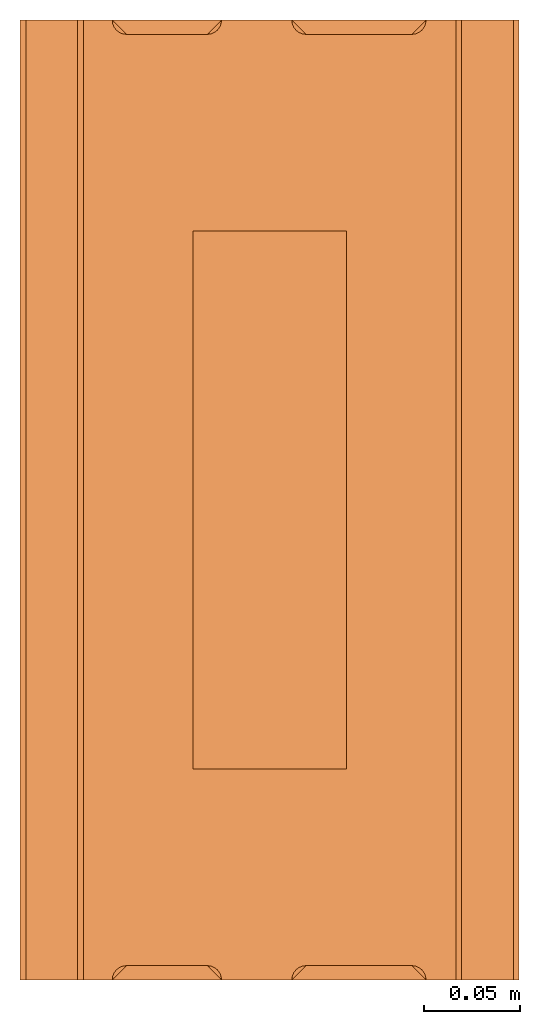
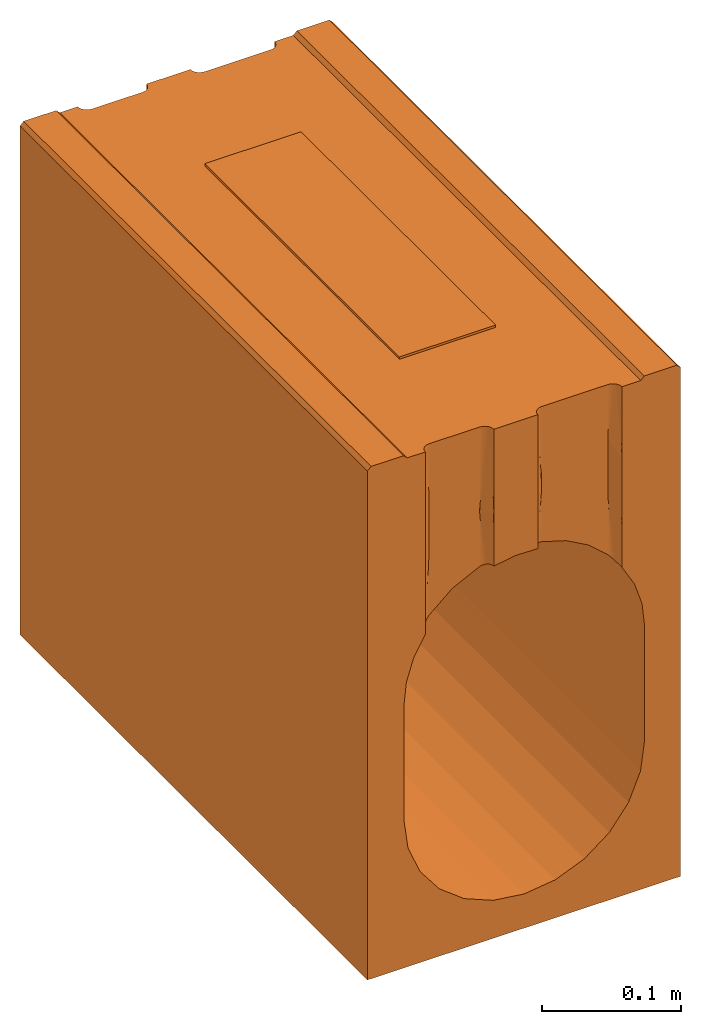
# One storey: 1 proxy.
"""IFC2X3 building model written with IfcOpenShell, lengths in millimetres."""

from ifc_helpers import new_model, entity, si_unit, converted_unit, direction, frame, origin, place, context, subcontext, project, spatial, faceted_brep, source, transform, mapped, material, element, save


model = new_model("IFC2X3")

# Units and contexts
model_context = context("Model", 3, precision=1e-06, world=origin(), true_north=direction((2.0, 6.12303176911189e-17, 1.0)))
context_of_model = context(None, 3, precision=1e-06, world=origin(), true_north=direction((2.0, 6.12303176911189e-17, 1.0)))
body_context = subcontext(model_context, "Body", "Model", "MODEL_VIEW")
ifc_project = project(units=[si_unit("LENGTHUNIT", "METRE", prefix="MILLI"), si_unit("AREAUNIT", "SQUARE_METRE", prefix="MILLI"), si_unit("VOLUMEUNIT", "CUBIC_METRE", prefix="MILLI"), converted_unit("PLANEANGLEUNIT", "DEGREE", entity("IfcRatioMeasure", 0.0174532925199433), si_unit("PLANEANGLEUNIT", "RADIAN"), dimensions=[0, 0, 0, 0, 0, 0, 0]), si_unit("TIMEUNIT", "SECOND")], contexts=[model_context, context_of_model])

# Site, building, storey
site_placement = place(None, origin())
site = spatial("IfcSite", under=ifc_project, at=site_placement, Name="Default", CompositionType="ELEMENT")
building_placement = place(site_placement, origin())
building = spatial("IfcBuilding", under=site, at=building_placement, CompositionType="ELEMENT")
storey_placement = place(building_placement, frame((0.0, 0.0, -4600.0)))
storey = spatial("IfcBuildingStorey", under=building, at=storey_placement, Name="B.O. Footing", CompositionType="ELEMENT", Elevation=-4600.0)

# Proxy
ifc_material = material(Name="Acetal Resin, Black")
shared_shape = source(origin(), body_context, "Body", "Brep", [
    faceted_brep([(-130.0, 0.0, -450.0), (-96.3425826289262, 0.0, -345.881904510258), (-99.7500000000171, 0.0, -320.0), (-86.3525403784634, 0.0, -370.0), (-99.7499999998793, 0.0, -219.996245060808), (-130.0, 0.0, -3.0), (-25.6319045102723, 0.0, -416.592582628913), (-49.75000000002, 0.0, -406.60254037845), (-70.4606781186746, 0.0, -390.710678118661), (0.24999999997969, 0.0, -420.0), (130.0, 0.0, -450.0), (-97.0, 0.0, -3.0), (-100.0, 0.0, 0.0), (-127.0, 0.0, 0.0), (-97.7180508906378, 0.0, -199.939799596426), (-91.712035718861, 0.0, -180.715410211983), (-82.0, 0.0, -163.119734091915), (-82.0, 0.0, -83.0598682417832), (26.1319045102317, 0.0, -416.592582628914), (70.9606781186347, 0.0, -390.710678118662), (50.2499999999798, 0.0, -406.602540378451), (86.8525403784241, 0.0, -370.0), (96.8425826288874, 0.0, -345.88190451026), (100.249999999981, 0.0, -320.0), (100.24999999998, 0.0, -219.996245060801), (130.0, 0.0, -3.00030384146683), (97.0, 0.0, -3.0), (81.5000000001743, 0.0, -161.700125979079), (91.7626676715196, 0.0, -179.679602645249), (81.5000000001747, 0.0, -3.0), (81.5000000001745, 0.0, -66.0758561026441), (81.5000000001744, 0.0, -113.887991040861), (98.09970829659, 0.0, -199.370179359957), (126.999696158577, 0.0, 0.0), (100.0, 0.0, 0.0), (11.5477946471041, 500.0, -3.0), (11.5477946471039, 500.0, -72.8243603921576), (-6.86860893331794, 500.0, -120.249939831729), (-25.0, 500.0, -3.0), (-25.0, 500.0, -123.236555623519), (-25.0, 500.0, -75.4244206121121), (-25.0, 0.0, -3.0), (-25.0, 0.0, -75.4244213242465), (-6.84906831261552, 0.0, -120.248547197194), (11.5477946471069, 0.0, -3.0), (11.5477946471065, 0.0, -120.636495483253), (11.5477946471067, 0.0, -72.8243591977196), (130.0, 500.0, -450.0), (96.8425826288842, 500.0, -345.88190451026), (100.249999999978, 500.0, -320.0), (86.8525403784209, 500.0, -370.0), (100.250000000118, 500.0, -219.99624506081), (130.0, 500.0, -3.00030384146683), (26.1319045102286, 500.0, -416.592582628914), (50.2499999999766, 500.0, -406.602540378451), (70.9606781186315, 500.0, -390.710678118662), (0.249999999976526, 500.0, -420.0), (-130.0, 500.0, -450.0), (126.999696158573, 500.0, 0.0), (97.0, 500.0, -3.0), (100.0, 500.0, 0.0), (98.1003080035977, 500.0, -199.373024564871), (91.7558642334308, 500.0, -179.664163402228), (81.5000000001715, 500.0, -161.700125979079), (81.5000000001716, 500.0, -113.887991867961), (-25.6319045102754, 500.0, -416.592582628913), (-70.4606781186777, 500.0, -390.710678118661), (-49.7500000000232, 500.0, -406.60254037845), (-86.3525403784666, 500.0, -370.0), (-96.3425826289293, 500.0, -345.881904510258), (-99.7500000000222, 500.0, -320.0), (-99.7499999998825, 500.0, -219.996245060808), (-130.0, 500.0, -3.0), (-97.0, 500.0, -3.0), (-82.0, 500.0, -163.119734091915), (-91.7167978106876, 500.0, -180.726560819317), (-82.0, 500.0, -3.0), (-82.0, 500.0, -83.0598682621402), (-97.7175764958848, 500.0, -199.937482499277), (-127.0, 500.0, 0.0), (-100.0, 500.0, 0.0), (40.0, 319.282032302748, -450.0), (20.705523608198, 327.274066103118, -450.0), (56.5685424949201, 306.568542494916, -450.0), (0.0, 330.0, -450.0), (80.0, 250.0, -450.0), (77.2740661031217, 270.705523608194, -450.0), (69.2820323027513, 290.0, -450.0), (-20.7055236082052, 327.274066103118, -450.0), (-40.0, 319.282032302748, -450.0), (-56.5685424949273, 306.568542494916, -450.0), (-69.2820323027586, 290.0, -450.0), (-77.274066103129, 270.705523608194, -450.0), (-80.0, 250.0, -450.0), (69.2820323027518, 210.0, -450.0), (77.274066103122, 229.294476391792, -450.0), (56.5685424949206, 193.431457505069, -450.0), (40.0, 180.717967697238, -450.0), (20.7055236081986, 172.725933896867, -450.0), (0.0, 170.0, -450.0), (-77.274066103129, 229.29447639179, -450.0), (-69.2820323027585, 210.0, -450.0), (-40.0, 180.717967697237, -450.0), (-20.7055236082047, 172.725933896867, -450.0), (-56.568542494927, 193.431457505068, -450.0), (81.1950043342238, 497.882947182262, -161.277370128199), (81.1950043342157, 2.11705281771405, -161.277370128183), (80.4216632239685, 496.125436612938, -160.225814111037), (80.4216632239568, 3.87456338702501, -160.225814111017), (76.857097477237, 493.06552136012, -155.720646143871), (78.1743561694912, 493.769048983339, -157.324124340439), (78.1743561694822, 6.23095101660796, -157.324124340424), (76.8570974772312, 6.93447863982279, -155.72064614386), (79.3794709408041, 494.773979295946, -158.85275130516), (79.3794709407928, 5.2260207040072, -158.852751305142), (75.4574022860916, 492.64296400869, -154.088380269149), (75.4574022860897, 7.35703599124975, -154.088380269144), (13.2016693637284, 495.301828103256, -120.838520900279), (14.3957886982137, 494.117072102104, -121.001817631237), (14.3957886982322, 5.8829278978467, -121.001817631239), (13.2016693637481, 4.69817189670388, -120.838520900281), (11.7383704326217, 498.320024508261, -120.65835025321), (11.7383704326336, 1.67997549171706, -120.658350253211), (12.2997424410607, 496.72680715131, -120.724881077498), (12.2997424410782, 3.27319284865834, -120.7248810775), (58.0227410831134, 492.49999999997, -138.373267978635), (74.0, 492.499999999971, -152.461531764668), (74.0, 7.49999999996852, -152.461531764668), (58.0227410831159, 7.49999999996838, -138.373267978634), (39.4240326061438, 492.49999999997, -127.988662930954), (39.4240326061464, 7.49999999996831, -127.988662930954), (15.818647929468, 493.230759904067, -121.215593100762), (17.3961191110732, 492.684129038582, -121.477157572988), (17.3961191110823, 7.31587096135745, -121.477157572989), (15.8186479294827, 6.76924009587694, -121.215593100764), (19.047794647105, 492.49999999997, -121.778920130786), (19.0477946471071, 7.49999999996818, -121.778920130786), (11.5477946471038, 500.0, -120.636495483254), (-25.1970181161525, 498.292236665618, -123.288182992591), (-25.774869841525, 496.679966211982, -123.442083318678), (-25.1970181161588, 1.7077633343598, -123.288182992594), (-25.7748698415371, 3.32003378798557, -123.442083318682), (-26.6957528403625, 495.250187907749, -123.695017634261), (-26.6957528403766, 4.7498120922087, -123.695017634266), (-27.9018817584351, 494.074857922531, -124.040674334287), (-27.9018817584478, 5.92514207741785, -124.040674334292), (-55.3007739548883, 492.499999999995, -136.845108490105), (-32.4999999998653, 492.499999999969, -125.511127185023), (-32.4999999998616, 7.49999999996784, -125.511127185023), (-55.3007739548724, 7.49999999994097, -136.845108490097), (-30.880559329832, 492.676926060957, -124.965259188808), (-30.8805593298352, 7.32307393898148, -124.96525918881), (-29.3223177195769, 493.206448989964, -124.468877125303), (-29.3223177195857, 6.79355100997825, -124.468877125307), (-81.6881727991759, 497.859866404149, -162.671417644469), (-81.6881727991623, 2.14013359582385, -162.671417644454), (-80.9062164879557, 496.099949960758, -161.569637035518), (-80.9062164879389, 3.90005003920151, -161.569637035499), (-77.346208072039, 493.061044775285, -156.918289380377), (-75.9521343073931, 492.641922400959, -155.241054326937), (-75.9521343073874, 7.35807759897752, -155.241054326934), (-77.346208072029, 6.93895522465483, -156.918289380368), (-74.4999999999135, 492.500000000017, -153.570064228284), (-74.4999999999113, 7.49999999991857, -153.570064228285), (-79.8615303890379, 494.755575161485, -160.145240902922), (-79.8615303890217, 5.24442483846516, -160.145240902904), (-78.658658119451, 493.758560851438, -158.568045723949), (-78.6586581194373, 6.24143914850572, -158.568045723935), (-25.0, 0.0, -123.236555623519), (-81.744443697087, 498.058857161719, -3.0), (-80.9951905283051, 496.249999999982, -3.0), (-25.2555563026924, 498.058857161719, -3.0), (-26.0048094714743, 496.249999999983, -3.0), (11.8033509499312, 498.05885716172, -3.0), (-79.8033008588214, 494.696699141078, -3.0), (-78.2499999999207, 493.504809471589, -3.0), (-74.4999999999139, 492.499999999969, -3.0), (-76.4411428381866, 492.755556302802, -3.0), (-76.4411428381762, 7.24444369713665, -3.0), (-74.4999999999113, 7.49999999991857, -3.0), (-27.196699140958, 494.696699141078, -3.0), (-28.7499999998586, 493.50480947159, -3.0), (13.744493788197, 494.696699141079, -3.0), (12.5526041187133, 496.249999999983, -3.0), (-30.5588571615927, 492.755556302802, -3.0), (-32.4999999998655, 492.499999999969, -3.0), (19.0477946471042, 492.49999999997, -3.0), (17.1066518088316, 492.755556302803, -3.0), (15.2977946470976, 493.504809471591, -3.0), (-32.4999999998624, 7.49999999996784, -3.0), (81.500000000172, 500.0, -3.0), (81.2444436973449, 498.05885716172, -3.0), (80.4951905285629, 496.249999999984, -3.0), (79.3033008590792, 494.69669914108, -3.0), (77.7500000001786, 493.504809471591, -3.0), (75.9411428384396, 7.2444436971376, -3.0), (75.9411428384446, 492.755556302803, -3.0), (74.0, 492.499999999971, -3.0), (74.0, 7.49999999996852, -3.0), (19.0477946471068, 7.49999999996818, -3.0), (-78.2499999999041, 6.49519052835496, -3.0), (-30.5588571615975, 7.24444369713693, -3.0), (17.1066518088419, 7.2444436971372, -3.0), (-28.7499999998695, 6.4951905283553, -3.0), (-27.196699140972, 5.30330085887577, -3.0), (13.7444937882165, 5.30330085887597, -3.0), (15.2977946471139, 6.4951905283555, -3.0), (-81.7444436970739, 1.94114283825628, -3.0), (-80.9951905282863, 3.74999999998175, -3.0), (-82.0, 0.0, -3.0), (-79.8033008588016, 5.30330085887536, -3.0), (-25.2555563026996, 1.94114283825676, -3.0), (11.8033509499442, 1.94114283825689, -3.0), (-26.0048094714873, 3.74999999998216, -3.0), (12.5526041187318, 3.74999999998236, -3.0), (77.7500000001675, 6.49519052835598, -3.0), (80.4951905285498, 3.74999999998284, -3.0), (81.2444436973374, 1.94114283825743, -3.0), (79.303300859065, 5.30330085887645, -3.0), (19.047794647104, 492.49999999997, -73.9667852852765), (74.0, 492.499999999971, -98.6242681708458), (74.0, 492.499999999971, -50.8121340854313), (81.5000000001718, 500.0, -66.0758577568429), (-74.499999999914, 492.499999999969, -50.8121342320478), (-74.4999999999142, 492.499999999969, -98.6242694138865), (-32.4999999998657, 492.499999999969, -77.6989936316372), (-20.7055236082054, 327.274066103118, -440.0), (0.0, 330.0, -440.0), (-40.0, 319.282032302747, -440.0), (-56.5685424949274, 306.568542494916, -440.0), (-80.0, 250.0, -440.0), (-69.2820323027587, 290.0, -440.0), (-77.274066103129, 270.705523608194, -440.0), (40.0, 319.282032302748, -440.0), (40.0, 180.717967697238, -440.0), (20.7055236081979, 327.274066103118, -440.0), (56.56854249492, 306.568542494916, -440.0), (69.2820323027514, 290.0, -440.0), (77.2740661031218, 270.705523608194, -440.0), (80.0, 250.0, -440.0), (-69.2820323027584, 210.0, -440.0), (-40.0, 180.717967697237, -440.0), (-56.568542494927, 193.431457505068, -440.0), (0.0, 170.0, -440.0), (-20.7055236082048, 172.725933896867, -440.0), (77.2740661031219, 229.294476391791, -440.0), (69.2820323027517, 210.0, -440.0), (56.5685424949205, 193.431457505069, -440.0), (20.7055236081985, 172.725933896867, -440.0), (-77.2740661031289, 229.29447639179, -440.0), (74.0, 7.4999999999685, -50.8121299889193), (74.0, 7.4999999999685, -98.6242669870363), (19.0477946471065, 7.49999999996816, -73.9667863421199), (-74.4999999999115, 7.49999999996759, -50.8121335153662), (-32.4999999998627, 7.49999999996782, -77.6989939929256), (-74.4999999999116, 7.49999999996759, -98.624267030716)], [[[0, 1, 2]], [[1, 0, 3]], [[0, 2, 4, 5]], [[6, 7, 0]], [[8, 3, 0]], [[7, 8, 0]], [[9, 6, 0, 10]], [[5, 11, 12, 13]], [[14, 5, 4]], [[5, 14, 15]], [[11, 5, 16, 17]], [[16, 5, 15]], [[18, 9, 10]], [[19, 20, 10]], [[18, 10, 20]], [[21, 10, 22]], [[10, 21, 19]], [[23, 22, 10]], [[24, 23, 10, 25]], [[25, 26, 27, 28]], [[26, 29, 30, 31]], [[32, 24, 25]], [[33, 34, 26, 25]], [[25, 28, 32]], [[35, 36, 37, 38]], [[37, 39, 40, 38]], [[41, 42, 43, 44]], [[43, 45, 46, 44]], [[47, 48, 49]], [[48, 47, 50]], [[47, 49, 51, 52]], [[53, 54, 47]], [[55, 50, 47]], [[54, 55, 47]], [[56, 53, 47, 57]], [[58, 52, 59, 60]], [[61, 52, 51]], [[52, 61, 62]], [[59, 52, 63, 64]], [[63, 52, 62]], [[65, 56, 57]], [[66, 67, 57]], [[65, 57, 67]], [[68, 57, 69]], [[57, 68, 66]], [[70, 69, 57]], [[71, 70, 57, 72]], [[72, 73, 74, 75]], [[73, 76, 77, 74]], [[78, 71, 72]], [[72, 79, 80, 73]], [[72, 75, 78]], [[47, 52, 25, 10]], [[47, 81, 82]], [[81, 47, 83]], [[47, 82, 84]], [[85, 86, 47, 10]], [[87, 83, 47]], [[86, 87, 47]], [[84, 88, 57, 47]], [[57, 88, 89]], [[89, 90, 57]], [[91, 92, 57]], [[90, 91, 57]], [[57, 92, 93]], [[94, 95, 10]], [[96, 94, 10]], [[97, 10, 98]], [[10, 97, 96]], [[99, 98, 10, 0]], [[95, 85, 10]], [[100, 101, 0]], [[93, 100, 0, 57]], [[102, 103, 0]], [[104, 0, 101]], [[0, 104, 102]], [[103, 99, 0]], [[66, 68, 3, 8]], [[65, 67, 7, 6]], [[67, 66, 8, 7]], [[56, 65, 6, 9]], [[2, 1, 69, 70]], [[68, 69, 1, 3]], [[54, 53, 18, 20]], [[55, 54, 20, 19]], [[48, 50, 21, 22]], [[50, 55, 19, 21]], [[49, 48, 22, 23]], [[9, 18, 53, 56]], [[2, 70, 71, 4]], [[51, 24, 61]], [[63, 62, 27]], [[62, 61, 28]], [[105, 63, 27, 106]], [[107, 105, 106, 108]], [[109, 110, 111, 112]], [[110, 113, 114, 111]], [[113, 107, 108, 114]], [[115, 109, 112, 116]], [[117, 118, 119, 120]], [[43, 121, 122]], [[121, 123, 124, 122]], [[123, 117, 120, 124]], [[125, 126, 127, 128]], [[129, 125, 128, 130]], [[131, 132, 133, 134]], [[132, 135, 136, 133]], [[135, 129, 130, 136]], [[118, 131, 134, 119]], [[126, 115, 116, 127]], [[24, 32, 61]], [[28, 27, 62]], [[28, 61, 32]], [[122, 45, 43]], [[137, 121, 37]], [[138, 39, 37]], [[139, 138, 140, 141]], [[140, 138, 37]], [[142, 139, 141, 143]], [[144, 142, 143, 145]], [[146, 147, 148, 149]], [[147, 150, 151, 148]], [[152, 144, 145, 153]], [[150, 152, 153, 151]], [[74, 154, 155, 16]], [[74, 15, 75]], [[154, 156, 157, 155]], [[14, 78, 75]], [[158, 159, 160, 161]], [[159, 162, 163, 160]], [[156, 164, 165, 157]], [[164, 166, 167, 165]], [[166, 158, 161, 167]], [[71, 78, 14]], [[162, 146, 149, 163]], [[140, 43, 168]], [[37, 43, 140]], [[74, 16, 15]], [[14, 75, 15]], [[71, 14, 4]], [[121, 43, 37]], [[24, 51, 49, 23]], [[72, 57, 0, 5]], [[73, 169, 76]], [[169, 73, 170]], [[38, 171, 35]], [[171, 172, 173, 35]], [[73, 174, 170]], [[175, 174, 73]], [[176, 177, 178, 179]], [[177, 175, 73, 11]], [[180, 181, 182, 183]], [[184, 185, 186, 187]], [[181, 184, 188, 182]], [[185, 176, 179, 189]], [[172, 180, 183, 173]], [[59, 190, 191]], [[191, 192, 59]], [[59, 192, 193]], [[188, 184, 187]], [[193, 194, 59]], [[195, 196, 197, 198]], [[59, 194, 196, 26]], [[198, 197, 186, 199]], [[186, 185, 189, 199]], [[11, 200, 178, 177]], [[199, 189, 201, 202]], [[203, 204, 205, 206]], [[201, 203, 206, 202]], [[207, 208, 11]], [[11, 209, 207]], [[208, 210, 11]], [[211, 41, 44, 212]], [[213, 211, 212]], [[11, 210, 200]], [[214, 204, 213, 212]], [[195, 215, 26, 196]], [[216, 217, 26]], [[29, 26, 217]], [[216, 26, 218]], [[218, 26, 215]], [[205, 204, 214]], [[13, 79, 72, 5]], [[12, 80, 79, 13]], [[11, 73, 80, 12]], [[34, 60, 59, 26]], [[58, 60, 34, 33]], [[52, 58, 33, 25]], [[36, 173, 183]], [[182, 188, 219]], [[219, 187, 186]], [[173, 36, 35]], [[117, 123, 36]], [[219, 132, 131]], [[219, 188, 187]], [[183, 182, 36]], [[219, 118, 117]], [[121, 137, 36]], [[182, 219, 36]], [[123, 121, 36]], [[219, 117, 36]], [[219, 135, 132]], [[219, 131, 118]], [[220, 64, 110]], [[64, 63, 105]], [[64, 107, 113]], [[194, 193, 221]], [[191, 222, 192]], [[190, 222, 191]], [[221, 193, 222]], [[196, 194, 221]], [[220, 221, 222, 64]], [[126, 220, 115]], [[110, 109, 220]], [[109, 115, 220]], [[64, 105, 107]], [[193, 192, 222]], [[110, 64, 113]], [[221, 197, 196]], [[197, 221, 125, 129]], [[135, 219, 197, 129]], [[77, 174, 223]], [[77, 169, 170]], [[159, 224, 162]], [[177, 223, 175]], [[77, 223, 224]], [[174, 175, 223]], [[159, 158, 224]], [[223, 177, 176]], [[76, 169, 77]], [[170, 174, 77]], [[77, 154, 74]], [[156, 154, 77]], [[166, 164, 224]], [[164, 77, 224]], [[164, 156, 77]], [[158, 166, 224]], [[38, 40, 171]], [[150, 147, 225]], [[184, 181, 225]], [[40, 39, 138]], [[40, 172, 171]], [[180, 172, 40]], [[225, 144, 152]], [[40, 138, 139]], [[181, 180, 225]], [[225, 185, 184]], [[225, 40, 142]], [[180, 40, 225]], [[152, 150, 225]], [[225, 142, 144]], [[40, 139, 142]], [[146, 162, 224, 223]], [[176, 185, 225, 147]], [[176, 147, 146, 223]], [[226, 227, 228]], [[229, 228, 230, 231]], [[230, 232, 231]], [[233, 234, 228, 227]], [[235, 233, 227]], [[236, 237, 238, 239]], [[233, 236, 234]], [[240, 230, 228, 241]], [[242, 240, 241]], [[243, 244, 241, 234]], [[241, 228, 234]], [[245, 246, 247, 239]], [[236, 239, 247, 234]], [[234, 248, 243]], [[240, 249, 230]], [[198, 130, 128, 250]], [[128, 127, 251, 250]], [[198, 199, 252, 136]], [[130, 198, 136]], [[218, 30, 216]], [[116, 251, 127]], [[198, 250, 195]], [[250, 218, 215]], [[251, 31, 30, 250]], [[116, 112, 251]], [[31, 111, 114]], [[251, 111, 31]], [[30, 217, 216]], [[29, 217, 30]], [[31, 114, 108]], [[111, 251, 112]], [[106, 27, 31]], [[106, 31, 108]], [[195, 250, 215]], [[250, 30, 218]], [[252, 202, 206]], [[212, 44, 46]], [[46, 214, 212]], [[252, 119, 134]], [[46, 122, 124]], [[205, 214, 46]], [[206, 205, 252]], [[252, 199, 202]], [[252, 46, 120]], [[133, 136, 252]], [[205, 46, 252]], [[134, 133, 252]], [[252, 120, 119]], [[46, 45, 122]], [[46, 124, 120]], [[179, 253, 149, 148]], [[179, 148, 254, 189]], [[204, 42, 213]], [[211, 213, 42]], [[254, 201, 189]], [[143, 141, 42]], [[254, 151, 153]], [[204, 203, 254]], [[254, 42, 204]], [[140, 168, 42]], [[254, 148, 151]], [[143, 254, 145]], [[254, 203, 201]], [[141, 140, 42]], [[254, 143, 42]], [[211, 42, 41]], [[254, 153, 145]], [[16, 155, 17]], [[253, 179, 178]], [[253, 200, 210]], [[17, 165, 255]], [[208, 207, 17]], [[209, 17, 207]], [[253, 210, 17]], [[178, 200, 253]], [[253, 17, 255]], [[163, 255, 160]], [[161, 160, 255]], [[17, 157, 165]], [[17, 210, 208]], [[165, 167, 255]], [[161, 255, 167]], [[155, 157, 17]], [[238, 86, 85, 239]], [[237, 87, 86, 238]], [[233, 81, 83, 236]], [[236, 83, 87, 237]], [[235, 82, 81, 233]], [[82, 235, 227, 84]], [[226, 88, 84, 227]], [[228, 89, 88, 226]], [[231, 91, 90, 229]], [[229, 90, 89, 228]], [[232, 92, 91, 231]], [[92, 232, 230, 93]], [[249, 100, 93, 230]], [[240, 101, 100, 249]], [[241, 102, 104, 242]], [[242, 104, 101, 240]], [[244, 103, 102, 241]], [[103, 244, 243, 99]], [[248, 98, 99, 243]], [[234, 97, 98, 248]], [[246, 94, 96, 247]], [[247, 96, 97, 234]], [[245, 95, 94, 246]], [[95, 245, 239, 85]], [[11, 17, 209]], [[26, 31, 27]], [[37, 36, 137]], [[43, 42, 168]], [[59, 64, 222, 190]], [[125, 221, 220, 126]], [[197, 219, 186]], [[149, 253, 255, 163]]]),
    faceted_brep([(40.0, 390.0, -1.0), (-40.0, 390.0, -1.0), (-40.0, 250.0, -1.0), (-40.0, 110.0, -1.0), (40.0, 110.0, -1.0), (40.0, 110.0, -5.0), (-40.0, 110.0, -5.0), (-40.0, 250.0, -5.0), (-40.0, 390.0, -5.0), (40.0, 390.0, -5.0)], [[[0, 1, 2]], [[2, 3, 4, 0]], [[5, 6, 7]], [[7, 8, 9, 5]], [[2, 1, 8, 7]], [[3, 2, 7, 6]], [[4, 3, 6, 5]], [[0, 4, 5, 9]], [[1, 0, 9, 8]]]),
])
proxy_placement = place(storey_placement, frame((-71694.9775722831, 28686.5082893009, 300.0)))
element("IfcBuildingElementProxy", 1, at=proxy_placement, inside=storey, material=ifc_material, Name="Civil-Drainage-Channel-ACO-RoadDrain 200:33203 - PD200 F 20.3 Rodding Access 500mm LG:33203 - PD200 F 20.3 Rodding Access 500mm LG", ObjectType="33203 - PD200 F 20.3 Rodding Access 500mm LG", CompositionType="ELEMENT", context=body_context, shape_type="MappedRepresentation", body=[
    mapped(shared_shape, transform((0.0, 0.0, 0.0), scale=1.0)),
])

save(model, "model.ifc")
